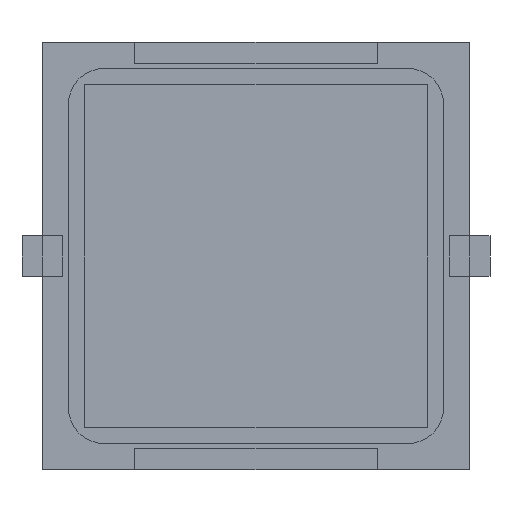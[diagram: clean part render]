
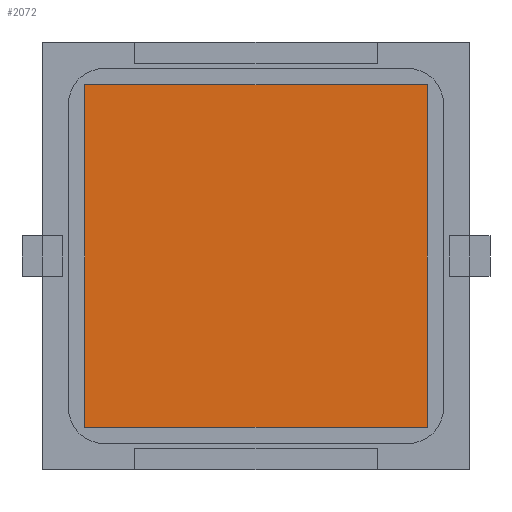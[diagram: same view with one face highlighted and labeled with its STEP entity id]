
A CAD part, front view. The second image highlights one B-rep face of the part: STEP entity #2072.
In plain terms, the highlighted planar face has unit normal (0, -1, 0).
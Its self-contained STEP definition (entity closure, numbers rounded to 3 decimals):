
#5 = ORIENTED_EDGE ( 'NONE', *, *, #4479, .F. ) ;
#30 = VERTEX_POINT ( 'NONE', #1390 ) ;
#34 = CARTESIAN_POINT ( 'NONE',  ( -8.5, -0.1, -8.5 ) ) ;
#107 = VECTOR ( 'NONE', #2170, 1000. ) ;
#323 = DIRECTION ( 'NONE',  ( 1., 0., 0. ) ) ;
#674 = CARTESIAN_POINT ( 'NONE',  ( 8.5, -0.1, -8.5 ) ) ;
#743 = VECTOR ( 'NONE', #323, 1000. ) ;
#749 = DIRECTION ( 'NONE',  ( 0., 0., 1. ) ) ;
#816 = ORIENTED_EDGE ( 'NONE', *, *, #3135, .F. ) ;
#876 = CARTESIAN_POINT ( 'NONE',  ( -8.5, -0.1, -8.5 ) ) ;
#1060 = CARTESIAN_POINT ( 'NONE',  ( -8.5, -0.1, 8.5 ) ) ;
#1212 = CARTESIAN_POINT ( 'NONE',  ( -8.5, -0.1, -8.5 ) ) ;
#1390 = CARTESIAN_POINT ( 'NONE',  ( 8.5, -0.1, -8.5 ) ) ;
#1391 = EDGE_CURVE ( 'NONE', #4695, #30, #4051, .T. ) ;
#1842 = DIRECTION ( 'NONE',  ( -1., 0., 0. ) ) ;
#1890 = VERTEX_POINT ( 'NONE', #2332 ) ;
#1986 = LINE ( 'NONE', #1212, #3750 ) ;
#2072 = ADVANCED_FACE ( 'NONE', ( #2599 ), #2278, .F. ) ;
#2118 = EDGE_LOOP ( 'NONE', ( #5, #816, #4673, #2524 ) ) ;
#2170 = DIRECTION ( 'NONE',  ( 0., 0., -1. ) ) ;
#2220 = LINE ( 'NONE', #34, #3848 ) ;
#2226 = AXIS2_PLACEMENT_3D ( 'NONE', #2250, #4080, #749 ) ;
#2250 = CARTESIAN_POINT ( 'NONE',  ( -8.5, -0.1, 8.5 ) ) ;
#2278 = PLANE ( 'NONE',  #2226 ) ;
#2332 = CARTESIAN_POINT ( 'NONE',  ( -8.5, -0.1, 8.5 ) ) ;
#2524 = ORIENTED_EDGE ( 'NONE', *, *, #4129, .F. ) ;
#2599 = FACE_OUTER_BOUND ( 'NONE', #2118, .T. ) ;
#3135 = EDGE_CURVE ( 'NONE', #30, #4795, #2220, .T. ) ;
#3387 = LINE ( 'NONE', #1060, #743 ) ;
#3463 = CARTESIAN_POINT ( 'NONE',  ( 8.5, -0.1, 8.5 ) ) ;
#3750 = VECTOR ( 'NONE', #3871, 1000. ) ;
#3848 = VECTOR ( 'NONE', #1842, 1000. ) ;
#3871 = DIRECTION ( 'NONE',  ( 0., 0., 1. ) ) ;
#4051 = LINE ( 'NONE', #674, #107 ) ;
#4080 = DIRECTION ( 'NONE',  ( 0., 1., 0. ) ) ;
#4129 = EDGE_CURVE ( 'NONE', #1890, #4695, #3387, .T. ) ;
#4479 = EDGE_CURVE ( 'NONE', #4795, #1890, #1986, .T. ) ;
#4673 = ORIENTED_EDGE ( 'NONE', *, *, #1391, .F. ) ;
#4695 = VERTEX_POINT ( 'NONE', #3463 ) ;
#4795 = VERTEX_POINT ( 'NONE', #876 ) ;
